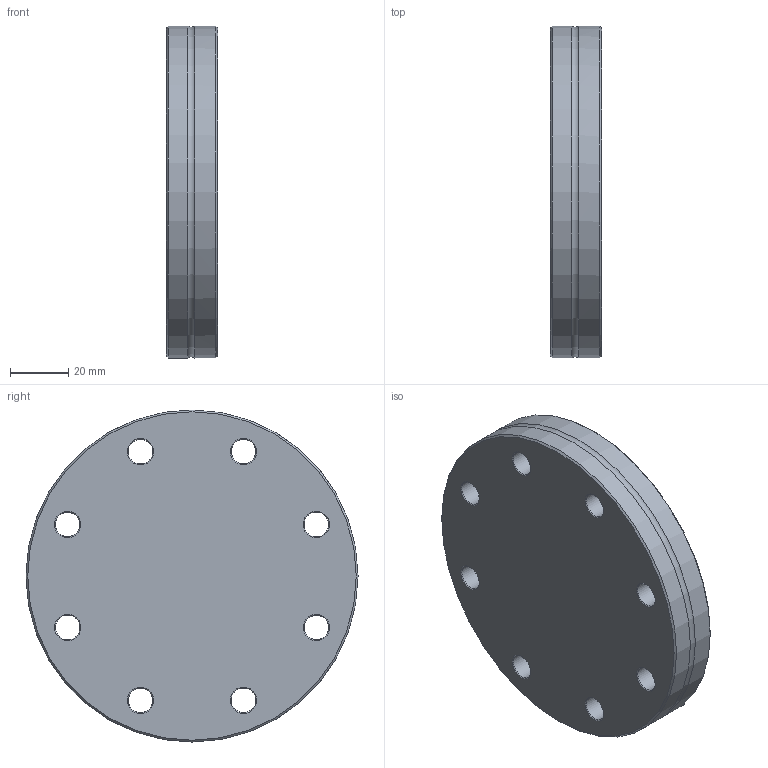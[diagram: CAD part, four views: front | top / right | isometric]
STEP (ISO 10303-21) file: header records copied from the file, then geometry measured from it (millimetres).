
FILE_DESCRIPTION((''),'2;1');
FILE_NAME('W:\13785_CF_Global_Fit_Umsetzung\001_Blank_Flange\M213-003.stp','2010-09-01T09:36:46',('KAA'),(''),'Autodesk Inventor 2011','Autodesk Inventor 2011','');
FILE_SCHEMA(('AUTOMOTIVE_DESIGN { 1 0 10303 214 1 1 1 1 }'));
Length unit declared in the file: millimetre
Products named in the file (1): 213-003
Bounding box: 17.5 x 113.7 x 113.7 mm (x, y, z)
Volume: 162531.9 mm3; surface area: 29491.8 mm2
Topology: 1 solids, 1 shells, 42 faces, 101 edges, 62 vertices
Faces by surface type: cone 23, cylinder 11, torus 4, plane 4
Full cylindrical faces by diameter (mm): 8.4 x8, 113.7 x2
Entity records: 1048 total; most frequent: CARTESIAN_POINT 188, DIRECTION 184, ORIENTED_EDGE 114, EDGE_LOOP 94, AXIS2_PLACEMENT_3D 91, EDGE_CURVE 57, VERTEX_POINT 53, FACE_BOUND 52
